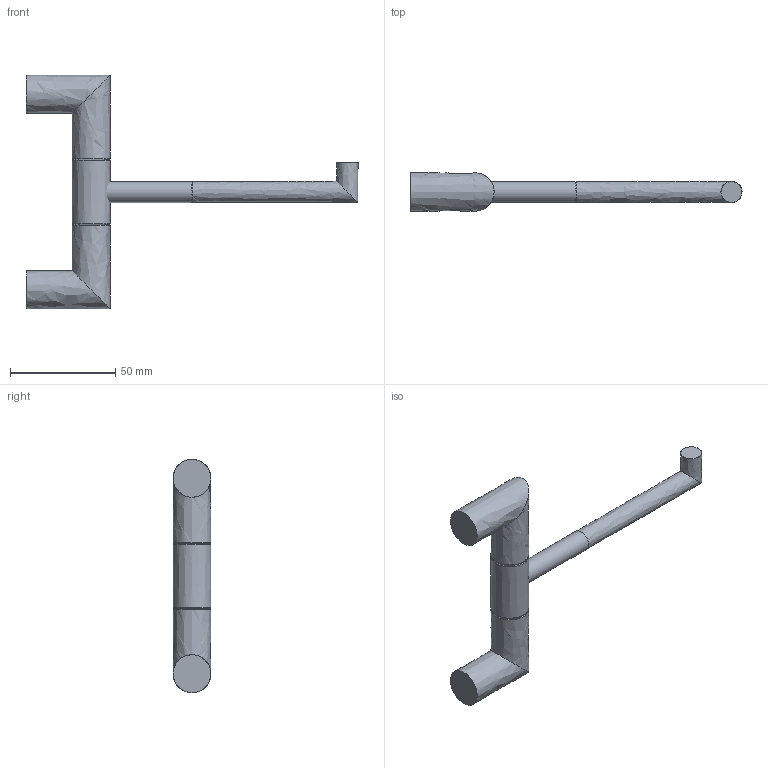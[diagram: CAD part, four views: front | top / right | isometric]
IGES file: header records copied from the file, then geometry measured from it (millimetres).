
Global section: file name: /Users/f/Desktop/II/AM235.igs; native system: Rhinoceros ( Jul 22 2010 ); preprocessor: Trout Lake IGES 012 Jul 22 2010; date: 100802.141431; units: millimetre
Bounding box: 158 x 18 x 111 mm (x, y, z)
Surface area: 14464.9 mm2 (no closed solid volume)
Topology: 0 solids, 0 shells, 20 faces, 368 edges, 361 vertices
Faces by surface type: bspline 20
